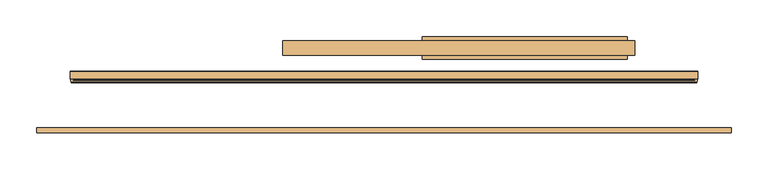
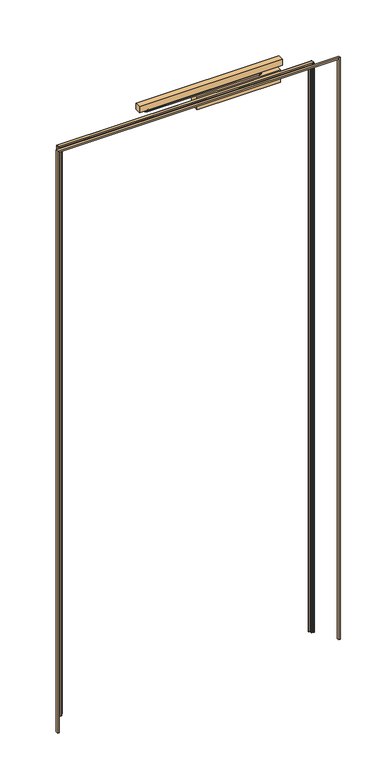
"""IFC4 building model written with IfcOpenShell, lengths in millimetres: door geometry, Peneder_HIGHLINEflat_1-flügelig_V2019 : Zargentyp - 01 - Eck 60 DN."""

from ifc_helpers import new_model, si_unit, point, frame, frame_2d, origin, place, context, project, spatial, polyline, circle_curve, ellipse_curve, trimmed, segment, composite_curve, outline, extrude, source, transform, mapped, element, save
from ifc_brep_helpers import plane_surface, cylinder_surface, revolved_surface, advanced_brep


def door_741bb2bb(model_context):
    return source(origin(), model_context, "Body", "SolidModel", [
        advanced_brep(
        [(-120.0, 107.0, 2013.0), (-100.0, 107.0, 2013.0), (-100.0, 107.0, 2015.0), (-120.0, 107.0, 2015.0), (-110.0, 107.0, 2013.0), (-110.0, 107.0, 2015.0)],
        [
            (0, 1, circle_curve(frame((-110.0, 107.0, 2013.0), z_axis=(0.0, 0.0, 1.0), x_axis=(1.0, 0.0, 0.0)), 10.0)),
            (1, 2),
            (2, 3, circle_curve(frame((-110.0, 107.0, 2015.0), z_axis=(0.0, 0.0, -1.0), x_axis=(1.0, 0.0, 0.0)), 10.0)),
            (3, 0),
            (1, 0, circle_curve(frame((-110.0, 107.0, 2013.0), z_axis=(0.0, 0.0, 1.0), x_axis=(1.0, 0.0, 0.0)), 10.0)),
            (3, 2, circle_curve(frame((-110.0, 107.0, 2015.0), z_axis=(0.0, 0.0, -1.0), x_axis=(1.0, 0.0, 0.0)), 10.0)),
            (4, 1),
            (0, 4),
            (2, 5),
            (5, 3),
        ],
        [
            cylinder_surface(frame((-110.0, 107.0, 2006.1812949), z_axis=(0.0, 0.0, -1.0), x_axis=(1.0, 0.0, 0.0)), 10.0),
            plane_surface(frame((-110.0, 107.0, 2013.0), z_axis=(0.0, 0.0, -1.0), x_axis=(1.0, 0.0, 0.0))),
            plane_surface(frame((-110.0, 107.0, 2015.0), z_axis=(0.0, 0.0, 1.0), x_axis=(1.0, 0.0, 0.0))),
        ],
        [
            (0, [[1, 2, 3, 4]]),
            (0, [[5, -4, 6, -2]]),
            (1, [[7, -1, 8]]),
            (1, [[-8, -5, -7]]),
            (2, [[-3, 9, 10]]),
            (2, [[-6, -10, -9]]),
        ],
    ),
        advanced_brep(
        [(-115.0, 107.0, 2008.0), (-105.0, 107.0, 2008.0), (-105.0, 107.0, 2009.0), (-115.0, 107.0, 2009.0), (-110.0, 107.0, 2008.0), (-110.0, 107.0, 2009.0)],
        [
            (0, 1, circle_curve(frame((-110.0, 107.0, 2008.0), z_axis=(0.0, 0.0, 1.0), x_axis=(1.0, 0.0, 0.0)), 5.0)),
            (1, 2),
            (2, 3, circle_curve(frame((-110.0, 107.0, 2009.0), z_axis=(0.0, 0.0, -1.0), x_axis=(1.0, 0.0, 0.0)), 5.0)),
            (3, 0),
            (1, 0, circle_curve(frame((-110.0, 107.0, 2008.0), z_axis=(0.0, 0.0, 1.0), x_axis=(1.0, 0.0, 0.0)), 5.0)),
            (3, 2, circle_curve(frame((-110.0, 107.0, 2009.0), z_axis=(0.0, 0.0, -1.0), x_axis=(1.0, 0.0, 0.0)), 5.0)),
            (4, 1),
            (0, 4),
            (2, 5),
            (5, 3),
        ],
        [
            cylinder_surface(frame((-110.0, 107.0, 2006.1812949), z_axis=(0.0, 0.0, -1.0), x_axis=(1.0, 0.0, 0.0)), 5.0),
            plane_surface(frame((-110.0, 107.0, 2008.0), z_axis=(0.0, 0.0, -1.0), x_axis=(1.0, 0.0, 0.0))),
            plane_surface(frame((-110.0, 107.0, 2009.0), z_axis=(0.0, 0.0, 1.0), x_axis=(1.0, 0.0, 0.0))),
        ],
        [
            (0, [[1, 2, 3, 4]]),
            (0, [[5, -4, 6, -2]]),
            (1, [[7, -1, 8]]),
            (1, [[-8, -5, -7]]),
            (2, [[-3, 9, 10]]),
            (2, [[-6, -10, -9]]),
        ],
    ),
        extrude(outline(composite_curve([segment(polyline([(-110.0, 117.0), (266.0, 117.0)]), True, "CONTINUOUS"), segment(trimmed(circle_curve(frame_2d((266.0, 107.0)), 10.0), [point((266.0, 117.0))], [point((266.0, 97.0))], False, "CARTESIAN"), True, "CONTINUOUS"), segment(polyline([(266.0, 97.0), (-110.0, 97.0)]), True, "CONTINUOUS"), segment(trimmed(circle_curve(frame_2d((-110.0, 107.0)), 10.0), [point((-110.0, 97.0))], [point((-110.0, 117.0))], False, "CARTESIAN"), True, "CONTINUOUS")], self_intersect=False)), frame((0.0, 0.0, 2009.0), z_axis=(0.0, 0.0, 1.0), x_axis=(1.0, 0.0, 0.0)), (0.0, 0.0, 1.0), 4.0),
        advanced_brep(
        [(266.0, 107.0, 2013.0), (271.0, 107.0, 2013.0), (261.0, 107.0, 2013.0), (261.0, 107.0, 2014.0), (271.0, 107.0, 2014.0), (266.0, 107.0, 2014.0)],
        [
            (0, 1),
            (1, 2, circle_curve(frame((266.0, 107.0, 2013.0), z_axis=(0.0, 0.0, -1.0), x_axis=(1.0, 0.0, 0.0)), 5.0)),
            (2, 0),
            (2, 1, circle_curve(frame((266.0, 107.0, 2013.0), z_axis=(0.0, 0.0, -1.0), x_axis=(1.0, 0.0, 0.0)), 5.0)),
            (3, 4, circle_curve(frame((266.0, 107.0, 2014.0), z_axis=(0.0, 0.0, 1.0), x_axis=(1.0, 0.0, 0.0)), 5.0)),
            (4, 5),
            (5, 3),
            (4, 3, circle_curve(frame((266.0, 107.0, 2014.0), z_axis=(0.0, 0.0, 1.0), x_axis=(1.0, 0.0, 0.0)), 5.0)),
            (1, 4),
            (3, 2),
        ],
        [
            plane_surface(frame((266.0, 107.0, 2013.0), z_axis=(0.0, 0.0, -1.0), x_axis=(1.0, 0.0, 0.0))),
            plane_surface(frame((266.0, 107.0, 2014.0), z_axis=(0.0, 0.0, 1.0), x_axis=(1.0, 0.0, 0.0))),
            cylinder_surface(frame((266.0, 107.0, 2034.8284376), z_axis=(0.0, 0.0, -1.0), x_axis=(1.0, 0.0, 0.0)), 5.0),
        ],
        [
            (0, [[1, 2, 3]]),
            (0, [[-3, 4, -1]]),
            (1, [[5, 6, 7]]),
            (1, [[8, -7, -6]]),
            (2, [[-2, 9, -5, 10]]),
            (2, [[-4, -10, -8, -9]]),
        ],
    ),
        advanced_brep(
        [(256.0, 107.0, 2007.0), (276.0, 107.0, 2007.0), (276.0, 107.0, 2009.0), (256.0, 107.0, 2009.0), (266.0, 107.0, 2007.0), (266.0, 107.0, 2009.0)],
        [
            (0, 1, circle_curve(frame((266.0, 107.0, 2007.0), z_axis=(0.0, 0.0, 1.0), x_axis=(1.0, 0.0, 0.0)), 10.0)),
            (1, 2),
            (2, 3, circle_curve(frame((266.0, 107.0, 2009.0), z_axis=(0.0, 0.0, -1.0), x_axis=(1.0, 0.0, 0.0)), 10.0)),
            (3, 0),
            (1, 0, circle_curve(frame((266.0, 107.0, 2007.0), z_axis=(0.0, 0.0, 1.0), x_axis=(1.0, 0.0, 0.0)), 10.0)),
            (3, 2, circle_curve(frame((266.0, 107.0, 2009.0), z_axis=(0.0, 0.0, -1.0), x_axis=(1.0, 0.0, 0.0)), 10.0)),
            (4, 1),
            (0, 4),
            (2, 5),
            (5, 3),
        ],
        [
            cylinder_surface(frame((266.0, 107.0, 2034.8284376), z_axis=(0.0, 0.0, -1.0), x_axis=(1.0, 0.0, 0.0)), 10.0),
            plane_surface(frame((266.0, 107.0, 2007.0), z_axis=(0.0, 0.0, -1.0), x_axis=(1.0, 0.0, 0.0))),
            plane_surface(frame((266.0, 107.0, 2009.0), z_axis=(0.0, 0.0, 1.0), x_axis=(1.0, 0.0, 0.0))),
        ],
        [
            (0, [[1, 2, 3, 4]]),
            (0, [[5, -4, 6, -2]]),
            (1, [[7, -1, 8]]),
            (1, [[-8, -5, -7]]),
            (2, [[-3, 9, 10]]),
            (2, [[-6, -10, -9]]),
        ],
    ),
        extrude(outline(polyline([(52.0, 122.5), (332.0, 122.5), (332.0, 91.5), (52.0, 91.5), (52.0, 122.5)])), frame((0.0, 0.0, 1962.0), z_axis=(0.0, 0.0, 1.0), x_axis=(1.0, 0.0, 0.0)), (0.0, 0.0, 1.0), 45.0),
        extrude(outline(polyline([(-138.0, 117.0), (342.0, 117.0), (342.0, 97.0), (-138.0, 97.0), (-138.0, 117.0)])), frame((0.0, 0.0, 2015.0), z_axis=(0.0, 0.0, 1.0), x_axis=(1.0, 0.0, 0.0)), (0.0, 0.0, 1.0), 21.0),
        advanced_brep(
        [(-417.5333333, 70.1996732, 0.0), (-418.4, 67.990098, 0.0), (-418.4, 61.80189, 0.0), (-419.0235102, 61.4701624, 0.0), (-423.7571616, 62.7993824, 0.0), (-425.9513805, 60.3111942, 0.0), (-426.6913103, 60.1883555, 0.0), (-428.0, 65.3343682, 0.0), (-428.0, 74.5479523, 0.0), (-426.9858543, 75.5478522, 0.0), (-421.2510105, 74.9191862, 0.0), (-414.8397079, 72.8273335, 0.0), (-413.3594274, 69.4757259, 0.0), (-413.8666667, 70.1996732, 0.0), (-417.5333333, 70.1996732, 2004.5333333), (-418.4, 67.990098, 2005.4), (-418.4, 61.80189, 2005.4), (-419.0235102, 61.4701624, 2006.0235102), (-423.7571616, 62.7993824, 2010.7571616), (-425.9513805, 60.3111942, 2012.9513805), (-426.6913103, 60.1883555, 2013.6913103), (-428.0, 65.3343682, 2015.0), (-428.0, 74.5479523, 2015.0), (-426.9858543, 75.5478522, 2013.9858543), (-421.2510105, 74.9191862, 2008.2510105), (-414.8397079, 72.8273335, 2001.8397079), (-413.3594274, 69.4757259, 2000.3594274), (-413.8666667, 70.1996732, 2000.8666667), (417.5333333, 70.1996732, 0.0), (413.8666667, 70.1996732, 0.0), (413.3594274, 69.4757259, 0.0), (414.8397079, 72.8273335, 0.0), (421.2510105, 74.9191862, 0.0), (426.9858543, 75.5478522, 0.0), (428.0, 74.5479523, 0.0), (428.0, 65.3343682, 0.0), (426.6913103, 60.1883555, 0.0), (425.9513805, 60.3111942, 0.0), (423.7571616, 62.7993824, 0.0), (419.0235102, 61.4701624, 0.0), (418.4, 61.80189, 0.0), (418.4, 67.990098, 0.0), (417.5333333, 70.1996732, 2004.5333333), (413.8666667, 70.1996732, 2000.8666667), (413.3594274, 69.4757259, 2000.3594274), (414.8397079, 72.8273335, 2001.8397079), (421.2510105, 74.9191862, 2008.2510105), (426.9858543, 75.5478522, 2013.9858543), (428.0, 74.5479523, 2015.0), (428.0, 65.3343682, 2015.0), (426.6913103, 60.1883555, 2013.6913103), (425.9513805, 60.3111942, 2012.9513805), (423.7571616, 62.7993824, 2010.7571616), (419.0235102, 61.4701624, 2006.0235102), (418.4, 61.80189, 2005.4), (418.4, 67.990098, 2005.4)],
        [
            (0, 1, circle_curve(frame((-415.15, 67.990098, 0.0), z_axis=(0.0, 0.0, 1.0), x_axis=(-1.0, 0.0, 0.0)), 3.25)),
            (1, 2),
            (2, 3, circle_curve(frame((-418.8, 61.80189, 0.0), z_axis=(0.0, 0.0, -1.0), x_axis=(-1.0, 0.0, 0.0)), 0.4)),
            (3, 4, circle_curve(frame((-423.4015438, 54.9724089, 0.0), z_axis=(0.0, 0.0, 1.0), x_axis=(-1.0, 0.0, 0.0)), 7.8350481)),
            (4, 5, circle_curve(frame((-423.6524844, 60.4954879, 0.0), z_axis=(0.0, 0.0, 1.0), x_axis=(-1.0, 0.0, 0.0)), 2.3062713)),
            (5, 6, circle_curve(frame((-426.3265489, 60.2811184, 0.0), z_axis=(0.0, 0.0, -1.0), x_axis=(-1.0, 0.0, 0.0)), 0.376372)),
            (6, 7),
            (7, 8),
            (8, 9, circle_curve(frame((-427.0, 74.5479523, 0.0), z_axis=(0.0, 0.0, -1.0), x_axis=(-1.0, 0.0, 0.0)), 1.0)),
            (9, 10, circle_curve(frame((-427.4158432, 45.1537382, 0.0), z_axis=(0.0, 0.0, -1.0), x_axis=(-1.0, 0.0, 0.0)), 30.3971554)),
            (10, 11, circle_curve(frame((-427.4158432, 45.1537382, 0.0), z_axis=(0.0, 0.0, -1.0), x_axis=(-1.0, 0.0, 0.0)), 30.3971554)),
            (11, 12, circle_curve(frame((-415.9783656, 70.3217345, 0.0), z_axis=(0.0, 0.0, -1.0), x_axis=(-1.0, 0.0, 0.0)), 2.7521932)),
            (12, 13, circle_curve(frame((-416.25, 67.990098, 0.0), z_axis=(0.0, 0.0, 1.0), x_axis=(-1.0, 0.0, 0.0)), 3.25)),
            (13, 0, circle_curve(frame((-415.7, 68.5, 0.0), z_axis=(0.0, 0.0, 1.0), x_axis=(-1.0, 0.0, 0.0)), 2.5)),
            (0, 14),
            (14, 15, ellipse_curve(frame((-415.15, 67.990098, 2002.15), z_axis=(0.7071067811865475, 0.0, 0.7071067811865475), x_axis=(-0.7071067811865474, 0.0, 0.7071067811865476)), 4.5961941, 3.25)),
            (15, 1),
            (15, 16),
            (16, 2),
            (16, 17, ellipse_curve(frame((-418.8, 61.80189, 2005.8), z_axis=(-0.7071067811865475, 0.0, -0.7071067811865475), x_axis=(0.7071067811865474, 0.0, -0.7071067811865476)), 0.5656854, 0.4)),
            (17, 3),
            (17, 18, ellipse_curve(frame((-423.4015438, 54.9724089, 2010.4015438), z_axis=(0.7071067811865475, 0.0, 0.7071067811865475), x_axis=(-0.7071067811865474, 0.0, 0.7071067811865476)), 11.0804313, 7.8350481)),
            (18, 4),
            (18, 19, ellipse_curve(frame((-423.6524844, 60.4954879, 2010.6524844), z_axis=(0.7071067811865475, 0.0, 0.7071067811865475), x_axis=(-0.7071067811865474, 0.0, 0.7071067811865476)), 3.2615602, 2.3062713)),
            (19, 5),
            (19, 20, ellipse_curve(frame((-426.3265489, 60.2811184, 2013.3265489), z_axis=(-0.7071067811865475, 0.0, -0.7071067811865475), x_axis=(0.7071067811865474, 0.0, -0.7071067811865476)), 0.5322704, 0.376372)),
            (20, 6),
            (20, 21),
            (21, 7),
            (21, 22),
            (22, 8),
            (22, 23, ellipse_curve(frame((-427.0, 74.5479523, 2014.0), z_axis=(-0.7071067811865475, 0.0, -0.7071067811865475), x_axis=(0.7071067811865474, 0.0, -0.7071067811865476)), 1.4142136, 1.0)),
            (23, 9),
            (23, 24, ellipse_curve(frame((-427.4158432, 45.1537382, 2014.4158432), z_axis=(-0.7071067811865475, 0.0, -0.7071067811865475), x_axis=(0.7071067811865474, 0.0, -0.7071067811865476)), 42.9880694, 30.3971554)),
            (24, 10),
            (24, 25, ellipse_curve(frame((-427.4158432, 45.1537382, 2014.4158432), z_axis=(-0.7071067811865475, 0.0, -0.7071067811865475), x_axis=(0.7071067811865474, 0.0, -0.7071067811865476)), 42.9880694, 30.3971554)),
            (25, 11),
            (25, 26, ellipse_curve(frame((-415.9783656, 70.3217345, 2002.9783656), z_axis=(-0.7071067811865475, 0.0, -0.7071067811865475), x_axis=(0.7071067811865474, 0.0, -0.7071067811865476)), 3.892189, 2.7521932)),
            (26, 12),
            (26, 27, ellipse_curve(frame((-416.25, 67.990098, 2003.25), z_axis=(0.7071067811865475, 0.0, 0.7071067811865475), x_axis=(-0.7071067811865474, 0.0, 0.7071067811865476)), 4.5961941, 3.25)),
            (27, 13),
            (27, 14, ellipse_curve(frame((-415.7, 68.5, 2002.7), z_axis=(0.7071067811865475, 0.0, 0.7071067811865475), x_axis=(-0.7071067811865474, 0.0, 0.7071067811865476)), 3.5355339, 2.5)),
            (28, 29, circle_curve(frame((415.7, 68.5, 0.0), z_axis=(0.0, 0.0, 1.0), x_axis=(1.0, 0.0, 0.0)), 2.5)),
            (29, 30, circle_curve(frame((416.25, 67.990098, 0.0), z_axis=(0.0, 0.0, 1.0), x_axis=(1.0, 0.0, 0.0)), 3.25)),
            (30, 31, circle_curve(frame((415.9783656, 70.3217345, 0.0), z_axis=(0.0, 0.0, -1.0), x_axis=(1.0, 0.0, 0.0)), 2.7521932)),
            (31, 32, circle_curve(frame((427.4158432, 45.1537382, 0.0), z_axis=(0.0, 0.0, -1.0), x_axis=(1.0, 0.0, 0.0)), 30.3971554)),
            (32, 33, circle_curve(frame((427.4158432, 45.1537382, 0.0), z_axis=(0.0, 0.0, -1.0), x_axis=(1.0, 0.0, 0.0)), 30.3971554)),
            (33, 34, circle_curve(frame((427.0, 74.5479523, 0.0), z_axis=(0.0, 0.0, -1.0), x_axis=(1.0, 0.0, 0.0)), 1.0)),
            (34, 35),
            (35, 36),
            (36, 37, circle_curve(frame((426.3265489, 60.2811184, 0.0), z_axis=(0.0, 0.0, -1.0), x_axis=(1.0, 0.0, 0.0)), 0.376372)),
            (37, 38, circle_curve(frame((423.6524844, 60.4954879, 0.0), z_axis=(0.0, 0.0, 1.0), x_axis=(1.0, 0.0, 0.0)), 2.3062713)),
            (38, 39, circle_curve(frame((423.4015438, 54.9724089, 0.0), z_axis=(0.0, 0.0, 1.0), x_axis=(1.0, 0.0, 0.0)), 7.8350481)),
            (39, 40, circle_curve(frame((418.8, 61.80189, 0.0), z_axis=(0.0, 0.0, -1.0), x_axis=(1.0, 0.0, 0.0)), 0.4)),
            (40, 41),
            (41, 28, circle_curve(frame((415.15, 67.990098, 0.0), z_axis=(0.0, 0.0, 1.0), x_axis=(1.0, 0.0, 0.0)), 3.25)),
            (42, 43, ellipse_curve(frame((415.7, 68.5, 2002.7), z_axis=(-0.7071067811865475, 0.0, 0.7071067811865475), x_axis=(-0.7071067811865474, 0.0, -0.7071067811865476)), 3.5355339, 2.5)),
            (43, 29),
            (28, 42),
            (43, 44, ellipse_curve(frame((416.25, 67.990098, 2003.25), z_axis=(-0.7071067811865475, 0.0, 0.7071067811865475), x_axis=(-0.7071067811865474, 0.0, -0.7071067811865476)), 4.5961941, 3.25)),
            (44, 30),
            (44, 45, ellipse_curve(frame((415.9783656, 70.3217345, 2002.9783656), z_axis=(0.7071067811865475, 0.0, -0.7071067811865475), x_axis=(0.7071067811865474, 0.0, 0.7071067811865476)), 3.892189, 2.7521932)),
            (45, 31),
            (45, 46, ellipse_curve(frame((427.4158432, 45.1537382, 2014.4158432), z_axis=(0.7071067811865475, 0.0, -0.7071067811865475), x_axis=(0.7071067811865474, 0.0, 0.7071067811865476)), 42.9880694, 30.3971554)),
            (46, 32),
            (46, 47, ellipse_curve(frame((427.4158432, 45.1537382, 2014.4158432), z_axis=(0.7071067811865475, 0.0, -0.7071067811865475), x_axis=(0.7071067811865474, 0.0, 0.7071067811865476)), 42.9880694, 30.3971554)),
            (47, 33),
            (47, 48, ellipse_curve(frame((427.0, 74.5479523, 2014.0), z_axis=(0.7071067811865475, 0.0, -0.7071067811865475), x_axis=(0.7071067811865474, 0.0, 0.7071067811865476)), 1.4142136, 1.0)),
            (48, 34),
            (48, 49),
            (49, 35),
            (49, 50),
            (50, 36),
            (50, 51, ellipse_curve(frame((426.3265489, 60.2811184, 2013.3265489), z_axis=(0.7071067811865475, 0.0, -0.7071067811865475), x_axis=(0.7071067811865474, 0.0, 0.7071067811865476)), 0.5322704, 0.376372)),
            (51, 37),
            (51, 52, ellipse_curve(frame((423.6524844, 60.4954879, 2010.6524844), z_axis=(-0.7071067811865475, 0.0, 0.7071067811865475), x_axis=(-0.7071067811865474, 0.0, -0.7071067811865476)), 3.2615602, 2.3062713)),
            (52, 38),
            (52, 53, ellipse_curve(frame((423.4015438, 54.9724089, 2010.4015438), z_axis=(-0.7071067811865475, 0.0, 0.7071067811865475), x_axis=(-0.7071067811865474, 0.0, -0.7071067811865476)), 11.0804313, 7.8350481)),
            (53, 39),
            (53, 54, ellipse_curve(frame((418.8, 61.80189, 2005.8), z_axis=(0.7071067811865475, 0.0, -0.7071067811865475), x_axis=(0.7071067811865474, 0.0, 0.7071067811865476)), 0.5656854, 0.4)),
            (54, 40),
            (54, 55),
            (55, 41),
            (55, 42, ellipse_curve(frame((415.15, 67.990098, 2002.15), z_axis=(-0.7071067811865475, 0.0, 0.7071067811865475), x_axis=(-0.7071067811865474, 0.0, -0.7071067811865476)), 4.5961941, 3.25)),
            (26, 44),
            (43, 27),
            (42, 14),
            (55, 15),
            (54, 16),
            (21, 49),
            (48, 22),
            (53, 17),
            (52, 18),
            (51, 19),
            (50, 20),
            (47, 23),
            (46, 24),
            (45, 25),
        ],
        [
            plane_surface(frame((-474.0, 125.0, 0.0), z_axis=(0.0, 0.0, -1.0), x_axis=(0.0, 1.0, 0.0))),
            revolved_surface(polyline([(-418.4, 67.990098, 2005.4000000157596), (-418.4, 67.990098, 0.0)]), (-415.15, 67.990098, 0.0), (0.0, 0.0, 1.0)),
            plane_surface(frame((-418.4, 67.990098, 0.0), z_axis=(1.0, 0.0, 0.0), x_axis=(0.0, 0.0, 1.0))),
            cylinder_surface(frame((-418.8, 61.80189, 0.0), z_axis=(0.0, 0.0, -1.0), x_axis=(-1.0, 0.0, 0.0)), 0.4),
            revolved_surface(polyline([(-431.2365919, 54.9724089, 2018.2365919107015), (-431.2365919, 54.9724089, 0.0)]), (-423.4015438, 54.9724089, 0.0), (0.0, 0.0, 1.0)),
            revolved_surface(polyline([(-425.9587557, 60.4954879, 2012.958755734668), (-425.9587557, 60.4954879, 0.0)]), (-423.6524844, 60.4954879, 0.0), (0.0, 0.0, 1.0)),
            cylinder_surface(frame((-426.3265489, 60.2811184, 0.0), z_axis=(0.0, 0.0, -1.0), x_axis=(-1.0, 0.0, 0.0)), 0.376372),
            plane_surface(frame((-426.6913103, 60.1883555, 0.0), z_axis=(-0.9691513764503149, -0.2464662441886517, 0.0), x_axis=(0.0, 0.0, 1.0))),
            plane_surface(frame((-428.0, 65.3343682, 0.0), z_axis=(-1.0, 0.0, 0.0), x_axis=(0.0, 0.0, 1.0))),
            cylinder_surface(frame((-427.0, 74.5479523, 0.0), z_axis=(0.0, 0.0, -1.0), x_axis=(-1.0, 0.0, 0.0)), 1.0),
            cylinder_surface(frame((-427.4158432, 45.1537382, 0.0), z_axis=(0.0, 0.0, -1.0), x_axis=(-1.0, 0.0, 0.0)), 30.3971554),
            cylinder_surface(frame((-415.9783656, 70.3217345, 0.0), z_axis=(0.0, 0.0, -1.0), x_axis=(-1.0, 0.0, 0.0)), 2.7521932),
            revolved_surface(polyline([(-419.5, 67.990098, 2006.5000000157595), (-419.5, 67.990098, 0.0)]), (-416.25, 67.990098, 0.0), (0.0, 0.0, 1.0)),
            revolved_surface(polyline([(-418.2, 68.5, 2005.199999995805), (-418.2, 68.5, 0.0)]), (-415.7, 68.5, 0.0), (0.0, 0.0, 1.0)),
            plane_surface(frame((474.0, 125.0, 0.0), z_axis=(0.0, 0.0, -1.0), x_axis=(0.0, 1.0, 0.0))),
            revolved_surface(polyline([(418.2, 68.5, 0.0), (418.2, 68.5, 2005.199999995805)]), (415.7, 68.5, 2061.0), (0.0, 0.0, -1.0)),
            revolved_surface(polyline([(419.5, 67.990098, 0.0), (419.5, 67.990098, 2006.5000000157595)]), (416.25, 67.990098, 2061.0), (0.0, 0.0, -1.0)),
            cylinder_surface(frame((415.9783656, 70.3217345, 2061.0), z_axis=(0.0, 0.0, 1.0), x_axis=(1.0, 0.0, 0.0)), 2.7521932),
            cylinder_surface(frame((427.4158432, 45.1537382, 2061.0), z_axis=(0.0, 0.0, 1.0), x_axis=(1.0, 0.0, 0.0)), 30.3971554),
            cylinder_surface(frame((427.0, 74.5479523, 2061.0), z_axis=(0.0, 0.0, 1.0), x_axis=(1.0, 0.0, 0.0)), 1.0),
            plane_surface(frame((428.0, 65.3343682, 2015.0), z_axis=(1.0, 0.0, 0.0), x_axis=(0.0, 0.0, -1.0))),
            plane_surface(frame((426.6913103, 60.1883555, 2013.6913103), z_axis=(0.9691513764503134, -0.2464662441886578, 0.0), x_axis=(0.0, 0.0, -1.0))),
            cylinder_surface(frame((426.3265489, 60.2811184, 2061.0), z_axis=(0.0, 0.0, 1.0), x_axis=(1.0, 0.0, 0.0)), 0.376372),
            revolved_surface(polyline([(425.9587557, 60.4954879, 0.0), (425.9587557, 60.4954879, 2012.958755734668)]), (423.6524844, 60.4954879, 2061.0), (0.0, 0.0, -1.0)),
            revolved_surface(polyline([(431.2365919, 54.9724089, 0.0), (431.2365919, 54.9724089, 2018.2365919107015)]), (423.4015438, 54.9724089, 2061.0), (0.0, 0.0, -1.0)),
            cylinder_surface(frame((418.8, 61.80189, 2061.0), z_axis=(0.0, 0.0, 1.0), x_axis=(1.0, 0.0, 0.0)), 0.4),
            plane_surface(frame((418.4, 67.990098, 2005.4), z_axis=(-1.0, 0.0, 0.0), x_axis=(0.0, 0.0, -1.0))),
            revolved_surface(polyline([(418.4, 67.990098, 0.0), (418.4, 67.990098, 2005.4000000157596)]), (415.15, 67.990098, 2061.0), (0.0, 0.0, -1.0)),
            revolved_surface(polyline([(419.5000000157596, 67.990098, 2006.5), (-419.5000000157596, 67.990098, 2006.5)]), (-474.0, 67.990098, 2003.25), (1.0, 0.0, 0.0)),
            revolved_surface(polyline([(418.199999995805, 68.5, 2005.2), (-418.1999999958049, 68.5, 2005.2)]), (-474.0, 68.5, 2002.7), (1.0, 0.0, 0.0)),
            revolved_surface(polyline([(418.4000000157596, 67.990098, 2005.4), (-418.4000000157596, 67.990098, 2005.4)]), (-474.0, 67.990098, 2002.15), (1.0, 0.0, 0.0)),
            plane_surface(frame((-418.4, 67.990098, 2005.4), z_axis=(0.0, 0.0, -1.0), x_axis=(1.0, 0.0, 0.0))),
            plane_surface(frame((-428.0, 65.3343682, 2015.0), z_axis=(0.0, 0.0, 1.0), x_axis=(1.0, 0.0, 0.0))),
            cylinder_surface(frame((-474.0, 61.80189, 2005.8), z_axis=(-1.0, 0.0, 0.0), x_axis=(0.0, 0.0, 1.0)), 0.4),
            revolved_surface(polyline([(431.2365919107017, 54.9724089, 2018.2365919), (-431.2365919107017, 54.9724089, 2018.2365919)]), (-474.0, 54.9724089, 2010.4015438), (1.0, 0.0, 0.0)),
            revolved_surface(polyline([(425.9587557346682, 60.4954879, 2012.9587557), (-425.95875573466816, 60.4954879, 2012.9587557)]), (-474.0, 60.4954879, 2010.6524844), (1.0, 0.0, 0.0)),
            cylinder_surface(frame((-474.0, 60.2811184, 2013.3265489), z_axis=(-1.0, 0.0, 0.0), x_axis=(0.0, 0.0, 1.0)), 0.376372),
            plane_surface(frame((-426.6913103, 60.1883555, 2013.6913103), z_axis=(0.0, -0.24646624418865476, 0.9691513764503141), x_axis=(1.0, 0.0, 0.0))),
            cylinder_surface(frame((-474.0, 74.5479523, 2014.0), z_axis=(-1.0, 0.0, 0.0), x_axis=(0.0, 0.0, 1.0)), 1.0),
            cylinder_surface(frame((-474.0, 45.1537382, 2014.4158432), z_axis=(-1.0, 0.0, 0.0), x_axis=(0.0, 0.0, 1.0)), 30.3971554),
            cylinder_surface(frame((-474.0, 70.3217345, 2002.9783656), z_axis=(-1.0, 0.0, 0.0), x_axis=(0.0, 0.0, 1.0)), 2.7521932),
        ],
        [
            (0, [[1, 2, 3, 4, 5, 6, 7, 8, 9, 10, 11, 12, 13, 14]]),
            (1, [[-1, 15, 16, 17]]),
            (2, [[-2, -17, 18, 19]]),
            (3, [[-3, -19, 20, 21]]),
            (4, [[-4, -21, 22, 23]]),
            (5, [[-5, -23, 24, 25]]),
            (6, [[-6, -25, 26, 27]]),
            (7, [[-7, -27, 28, 29]]),
            (8, [[-8, -29, 30, 31]]),
            (9, [[-9, -31, 32, 33]]),
            (10, [[-10, -33, 34, 35]]),
            (10, [[-11, -35, 36, 37]]),
            (11, [[-12, -37, 38, 39]]),
            (12, [[-13, -39, 40, 41]]),
            (13, [[-14, -41, 42, -15]]),
            (14, [[43, 44, 45, 46, 47, 48, 49, 50, 51, 52, 53, 54, 55, 56]]),
            (15, [[57, 58, -43, 59]]),
            (16, [[60, 61, -44, -58]]),
            (17, [[62, 63, -45, -61]]),
            (18, [[64, 65, -46, -63]]),
            (18, [[66, 67, -47, -65]]),
            (19, [[68, 69, -48, -67]]),
            (20, [[70, 71, -49, -69]]),
            (21, [[72, 73, -50, -71]]),
            (22, [[74, 75, -51, -73]]),
            (23, [[76, 77, -52, -75]]),
            (24, [[78, 79, -53, -77]]),
            (25, [[80, 81, -54, -79]]),
            (26, [[82, 83, -55, -81]]),
            (27, [[84, -59, -56, -83]]),
            (28, [[-40, 85, -60, 86]]),
            (29, [[-42, -86, -57, 87]]),
            (30, [[-16, -87, -84, 88]]),
            (31, [[-18, -88, -82, 89]]),
            (32, [[-30, 90, -70, 91]]),
            (33, [[-20, -89, -80, 92]]),
            (34, [[-22, -92, -78, 93]]),
            (35, [[-24, -93, -76, 94]]),
            (36, [[-26, -94, -74, 95]]),
            (37, [[-28, -95, -72, -90]]),
            (38, [[-32, -91, -68, 96]]),
            (39, [[-34, -96, -66, 97]]),
            (39, [[-36, -97, -64, 98]]),
            (40, [[-38, -98, -62, -85]]),
        ],
    ),
        advanced_brep(
        [(-474.0, -8.8, 0.0), (-474.0, -2.0, 0.0), (-469.0, -2.0, 0.0), (-469.0, -8.8, 0.0), (-474.0, -8.8, 2061.0), (-474.0, -2.0, 2061.0), (-469.0, -2.0, 2056.0), (-469.0, -8.8, 2056.0), (474.0, -8.8, 0.0), (469.0, -8.8, 0.0), (469.0, -2.0, 0.0), (474.0, -2.0, 0.0), (474.0, -8.8, 2061.0), (469.0, -8.8, 2056.0), (469.0, -2.0, 2056.0), (474.0, -2.0, 2061.0)],
        [
            (0, 1),
            (1, 2, circle_curve(frame((-471.5, 0.625, 0.0), z_axis=(0.0, 0.0, 1.0), x_axis=(-1.0, 0.0, 0.0)), 3.625)),
            (2, 3),
            (3, 0, circle_curve(frame((-471.5, -11.425, 0.0), z_axis=(0.0, 0.0, 1.0), x_axis=(-1.0, 0.0, 0.0)), 3.625)),
            (0, 4),
            (4, 5),
            (5, 1),
            (5, 6, ellipse_curve(frame((-471.5, 0.625, 2058.5), z_axis=(0.7071067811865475, 0.0, 0.7071067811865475), x_axis=(-0.7071067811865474, 0.0, 0.7071067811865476)), 5.1265242, 3.625)),
            (6, 2),
            (6, 7),
            (7, 3),
            (7, 4, ellipse_curve(frame((-471.5, -11.425, 2058.5), z_axis=(0.7071067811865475, 0.0, 0.7071067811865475), x_axis=(-0.7071067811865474, 0.0, 0.7071067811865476)), 5.1265242, 3.625)),
            (8, 9, circle_curve(frame((471.5, -11.425, 0.0), z_axis=(0.0, 0.0, 1.0), x_axis=(1.0, 0.0, 0.0)), 3.625)),
            (9, 10),
            (10, 11, circle_curve(frame((471.5, 0.625, 0.0), z_axis=(0.0, 0.0, 1.0), x_axis=(1.0, 0.0, 0.0)), 3.625)),
            (11, 8),
            (12, 13, ellipse_curve(frame((471.5, -11.425, 2058.5), z_axis=(-0.7071067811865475, 0.0, 0.7071067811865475), x_axis=(-0.7071067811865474, 0.0, -0.7071067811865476)), 5.1265242, 3.625)),
            (13, 9),
            (8, 12),
            (13, 14),
            (14, 10),
            (14, 15, ellipse_curve(frame((471.5, 0.625, 2058.5), z_axis=(-0.7071067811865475, 0.0, 0.7071067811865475), x_axis=(-0.7071067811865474, 0.0, -0.7071067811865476)), 5.1265242, 3.625)),
            (15, 11),
            (15, 12),
            (5, 15),
            (14, 6),
            (13, 7),
            (4, 12),
        ],
        [
            plane_surface(frame((-474.0, -2.0, 0.0), z_axis=(0.0, 0.0, -1.0), x_axis=(0.0, -1.0, 0.0))),
            plane_surface(frame((-474.0, -8.8, 0.0), z_axis=(-1.0, 0.0, 0.0), x_axis=(0.0, 0.0, 1.0))),
            revolved_surface(polyline([(-475.125, 0.625, 2062.125000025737), (-475.125, 0.625, 0.0)]), (-471.5, 0.625, 0.0), (0.0, 0.0, 1.0)),
            plane_surface(frame((-469.0, -2.0, 0.0), z_axis=(1.0, 0.0, 0.0), x_axis=(0.0, 0.0, 1.0))),
            revolved_surface(polyline([(-475.125, -11.425, 2062.125000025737), (-475.125, -11.425, 0.0)]), (-471.5, -11.425, 0.0), (0.0, 0.0, 1.0)),
            plane_surface(frame((474.0, -2.0, 0.0), z_axis=(0.0, 0.0, -1.0), x_axis=(0.0, -1.0, 0.0))),
            revolved_surface(polyline([(475.125, -11.425, 0.0), (475.125, -11.425, 2062.125000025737)]), (471.5, -11.425, 2061.0), (0.0, 0.0, -1.0)),
            plane_surface(frame((469.0, -2.0, 2056.0), z_axis=(-1.0, 0.0, 0.0), x_axis=(0.0, 0.0, -1.0))),
            revolved_surface(polyline([(475.125, 0.625, 0.0), (475.125, 0.625, 2062.125000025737)]), (471.5, 0.625, 2061.0), (0.0, 0.0, -1.0)),
            plane_surface(frame((474.0, -8.8, 2061.0), z_axis=(1.0, 0.0, 0.0), x_axis=(0.0, 0.0, -1.0))),
            revolved_surface(polyline([(475.125000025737, 0.625, 2062.125), (-475.12500002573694, 0.625, 2062.125)]), (-474.0, 0.625, 2058.5), (1.0, 0.0, 0.0)),
            plane_surface(frame((-469.0, -2.0, 2056.0), z_axis=(0.0, 0.0, -1.0), x_axis=(1.0, 0.0, 0.0))),
            plane_surface(frame((-474.0, -8.8, 2061.0), z_axis=(0.0, 0.0, 1.0), x_axis=(1.0, 0.0, 0.0))),
            revolved_surface(polyline([(475.125000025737, -11.425, 2062.125), (-475.12500002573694, -11.425, 2062.125)]), (-474.0, -11.425, 2058.5), (1.0, 0.0, 0.0)),
        ],
        [
            (0, [[1, 2, 3, 4]]),
            (1, [[-1, 5, 6, 7]]),
            (2, [[-2, -7, 8, 9]]),
            (3, [[-3, -9, 10, 11]]),
            (4, [[-4, -11, 12, -5]]),
            (5, [[13, 14, 15, 16]]),
            (6, [[17, 18, -13, 19]]),
            (7, [[20, 21, -14, -18]]),
            (8, [[22, 23, -15, -21]]),
            (9, [[24, -19, -16, -23]]),
            (10, [[-8, 25, -22, 26]]),
            (11, [[-10, -26, -20, 27]]),
            (12, [[-6, 28, -24, -25]]),
            (13, [[-12, -27, -17, -28]]),
        ],
    ),
    ])


if __name__ == "__main__":
    model = new_model("IFC4")
    model_context = context("Model", 3, world=origin())
    ifc_project = project(units=[si_unit("LENGTHUNIT", "METRE", prefix="MILLI")], contexts=[model_context])
    site = spatial("IfcSite", under=ifc_project)
    building = spatial("IfcBuilding", under=site)
    placement = place(None, origin())
    door_shape = door_741bb2bb(model_context)
    element("IfcDoor", 1, ObjectType="Peneder_HIGHLINEflat_1-flügelig_V2019 : Zargentyp - 01 - Eck 60 DN", at=placement, inside=building, context=model_context, shape_type="MappedRepresentation", body=[
        mapped(door_shape, transform((0.0, 0.0, 0.0), x_axis=(1.0, 0.0, 0.0), y_axis=(0.0, 1.0, 0.0), z_axis=(0.0, 0.0, 1.0))),
    ])
    save(model, "model.ifc")
